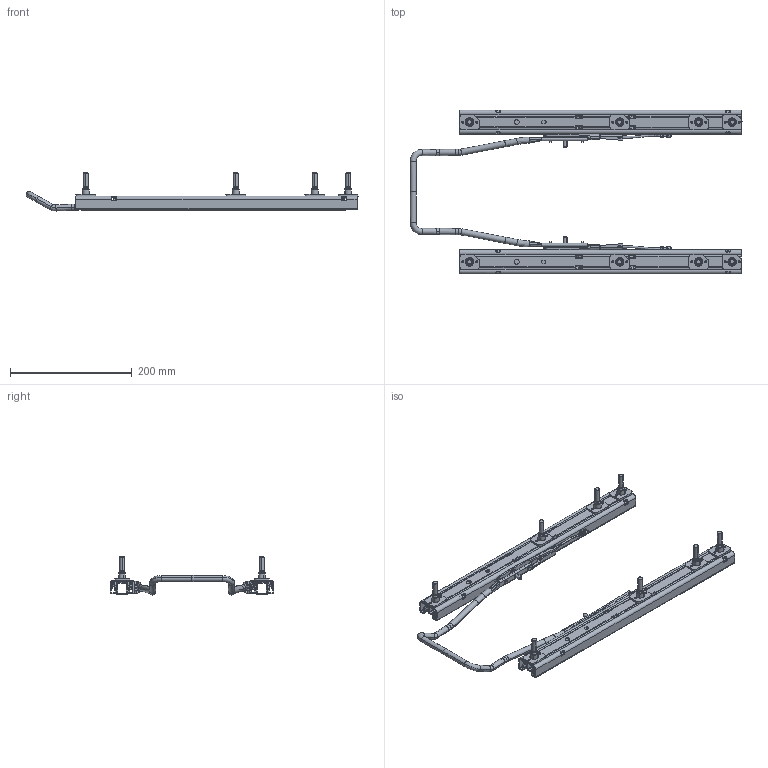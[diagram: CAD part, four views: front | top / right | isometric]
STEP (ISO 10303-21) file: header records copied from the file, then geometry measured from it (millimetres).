
FILE_DESCRIPTION(('CATIA V5 STEP Exchange'),'2;1');
FILE_NAME('E:\吉利商用车G3\07问题清单\ECR0009830-手动滑轨增加定位销和变更工装安装孔变更\变更前.stp','2023-10-10T02:55:26+00:00',('none'),('none'),'CATIA Version 5 Release 20 GA (IN-10)','CATIA V5 STEP AP214','none');
FILE_SCHEMA(('AUTOMOTIVE_DESIGN { 1 0 10303 214 1 1 1 1 }'));
Products named in the file (1): G3_MAN 230518
Bounding box: 546.46 x 269.69 x 62.63 mm (x, y, z)
Volume: 449059.2 mm3; surface area: 440620.7 mm2
Topology: 39 solids, 39 shells, 3303 faces, 9465 edges, 6130 vertices
Faces by surface type: cylinder 1399, plane 1078, bspline 224, torus 214, cone 180, sphere 128, revolution 48, extrusion 32
Entity records: 147228 total; most frequent: CARTESIAN_POINT 67858, ORIENTED_EDGE 18722, DIRECTION 12378, EDGE_CURVE 9361, VERTEX_POINT 6130, AXIS2_PLACEMENT_3D 5247, VECTOR 4630, LINE 4598
